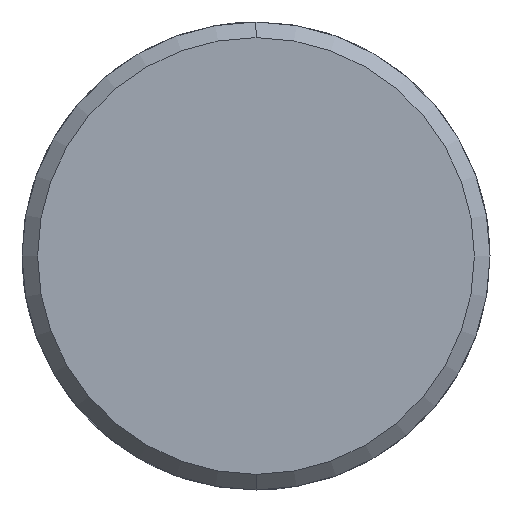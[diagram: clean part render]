
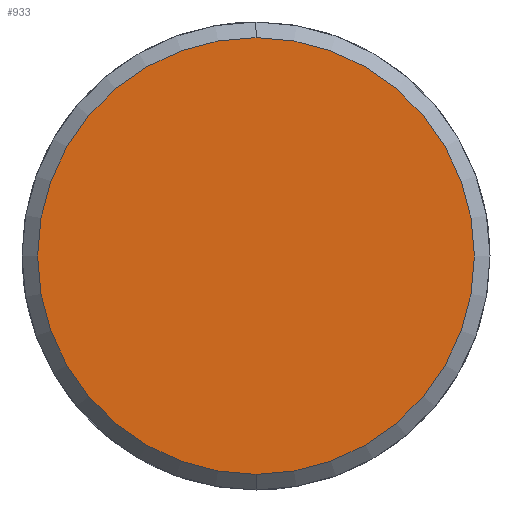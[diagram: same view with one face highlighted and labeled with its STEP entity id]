
A CAD part, left-side view. The second image highlights one B-rep face of the part: STEP entity #933.
In plain terms, the highlighted planar face has unit normal (-1, 0, 0).
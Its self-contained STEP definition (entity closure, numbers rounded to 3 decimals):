
#865=CARTESIAN_POINT('Vertex',(-5.,0.,-14.)) ;
#868=CARTESIAN_POINT('Axis2P3D Location',(-5.,0.,0.)) ;
#872=CARTESIAN_POINT('Vertex',(-5.,14.,0.)) ;
#875=CARTESIAN_POINT('Axis2P3D Location',(-5.,0.,0.)) ;
#879=CARTESIAN_POINT('Vertex',(-5.,0.,14.)) ;
#901=CARTESIAN_POINT('Axis2P3D Location',(-5.,0.,0.)) ;
#905=CARTESIAN_POINT('Vertex',(-5.,-14.,0.)) ;
#908=CARTESIAN_POINT('Axis2P3D Location',(-5.,0.,0.)) ;
#922=CARTESIAN_POINT('Axis2P3D Location',(-5.,0.,0.)) ;
#869=DIRECTION('Axis2P3D Direction',(1.,0.,-0.)) ;
#876=DIRECTION('Axis2P3D Direction',(1.,0.,-0.)) ;
#902=DIRECTION('Axis2P3D Direction',(1.,0.,-0.)) ;
#909=DIRECTION('Axis2P3D Direction',(1.,0.,-0.)) ;
#923=DIRECTION('Axis2P3D Direction',(1.,0.,-0.)) ;
#924=DIRECTION('Axis2P3D XDirection',(-0.,0.,-1.)) ;
#870=AXIS2_PLACEMENT_3D('Circle Axis2P3D',#868,#869,$) ;
#877=AXIS2_PLACEMENT_3D('Circle Axis2P3D',#875,#876,$) ;
#903=AXIS2_PLACEMENT_3D('Circle Axis2P3D',#901,#902,$) ;
#910=AXIS2_PLACEMENT_3D('Circle Axis2P3D',#908,#909,$) ;
#925=AXIS2_PLACEMENT_3D('Plane Axis2P3D',#922,#923,#924) ;
#928=ORIENTED_EDGE('',*,*,#874,.F.) ;
#929=ORIENTED_EDGE('',*,*,#912,.F.) ;
#930=ORIENTED_EDGE('',*,*,#907,.F.) ;
#931=ORIENTED_EDGE('',*,*,#881,.F.) ;
#933=ADVANCED_FACE('351-18X56X80',(#932),#926,.F.) ;
#871=CIRCLE('generated circle',#870,14.) ;
#878=CIRCLE('generated circle',#877,14.) ;
#904=CIRCLE('generated circle',#903,14.) ;
#911=CIRCLE('generated circle',#910,14.) ;
#874=EDGE_CURVE('',#866,#873,#871,.T.) ;
#881=EDGE_CURVE('',#873,#880,#878,.T.) ;
#907=EDGE_CURVE('',#880,#906,#904,.T.) ;
#912=EDGE_CURVE('',#906,#866,#911,.T.) ;
#927=EDGE_LOOP('',(#928,#929,#930,#931)) ;
#932=FACE_OUTER_BOUND('',#927,.T.) ;
#926=PLANE('Plane',#925) ;
#866=VERTEX_POINT('',#865) ;
#873=VERTEX_POINT('',#872) ;
#880=VERTEX_POINT('',#879) ;
#906=VERTEX_POINT('',#905) ;
